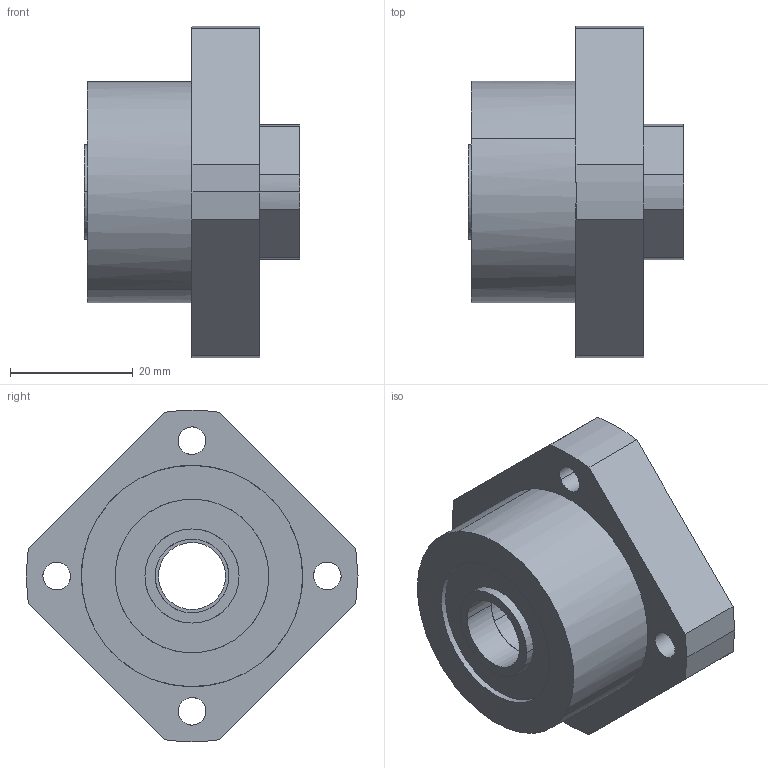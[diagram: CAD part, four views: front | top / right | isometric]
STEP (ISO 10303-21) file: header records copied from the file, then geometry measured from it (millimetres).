
FILE_DESCRIPTION(('CATIA V5 STEP Exchange'),'2;1');
FILE_NAME('D:\서포트 완성도면\FK\FK12.stp','2014-03-26T10:15:46+00:00',('none'),('none'),'CATIA Version 5 Release 18 GA (IN-10)','CATIA V5 STEP AP203','none');
FILE_SCHEMA(('CONFIG_CONTROL_DESIGN'));
Length unit declared in the file: millimetre
Products named in the file (1): FK12
Assembly tree (4 placements, depth 2):
  FK12
    #56
    #2166  x2
    #2442
Bounding box: 35 x 54 x 53.92 mm (x, y, z)
Volume: 33892.2 mm3; surface area: 11735.9 mm2
Topology: 4 solids, 4 shells, 75 faces, 174 edges, 116 vertices
Faces by surface type: cylinder 50, plane 25
Entity records: 2909 total; most frequent: CARTESIAN_POINT 1356, ORIENTED_EDGE 324, DIRECTION 225, EDGE_CURVE 162, VERTEX_POINT 108, EDGE_LOOP 92, AXIS2_PLACEMENT_3D 89, VECTOR 70
